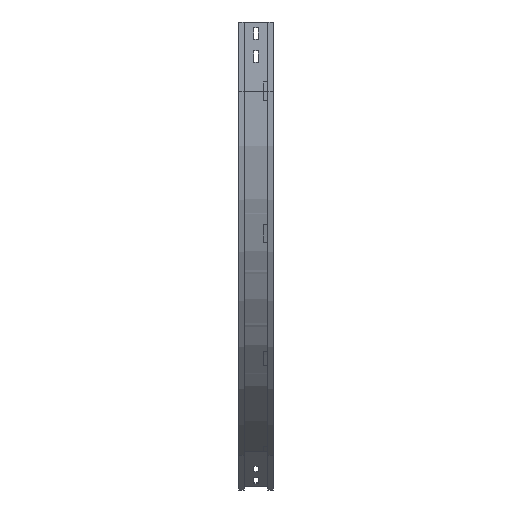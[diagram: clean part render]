
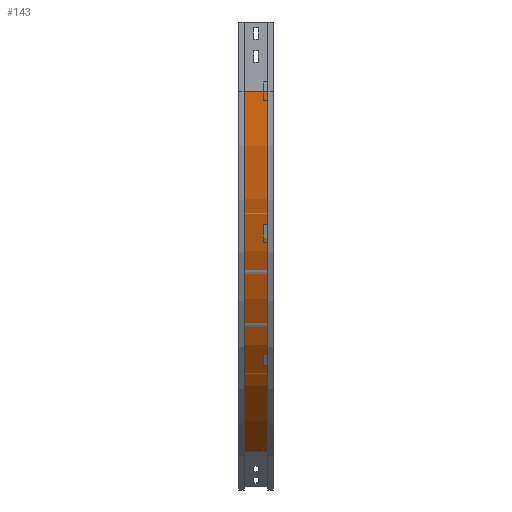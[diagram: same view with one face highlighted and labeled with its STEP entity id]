
A CAD part, left-side view. The second image highlights one B-rep face of the part: STEP entity #143.
In plain terms, the highlighted cylindrical face has radius 900 mm (diameter 1800 mm), a partial arc.
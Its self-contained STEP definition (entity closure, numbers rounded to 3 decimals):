
#56 = CARTESIAN_POINT ( 'NONE',  ( 459., 12., -929.423 ) ) ;
#60 = EDGE_CURVE ( 'NONE', #3239, #1881, #205, .T. ) ;
#70 = CARTESIAN_POINT ( 'NONE',  ( 909., 63., -150. ) ) ;
#143 = ADVANCED_FACE ( 'NONE', ( #1238 ), #165, .T. ) ;
#165 = CYLINDRICAL_SURFACE ( 'NONE', #644, 900. ) ;
#205 = CIRCLE ( 'NONE', #1478, 900. ) ;
#210 = CARTESIAN_POINT ( 'NONE',  ( 459., 12., -929.423 ) ) ;
#381 = DIRECTION ( 'NONE',  ( 0., -1., 0. ) ) ;
#593 = VECTOR ( 'NONE', #381, 1000. ) ;
#644 = AXIS2_PLACEMENT_3D ( 'NONE', #3329, #3289, #782 ) ;
#738 = CARTESIAN_POINT ( 'NONE',  ( 459., 63., -929.423 ) ) ;
#765 = CARTESIAN_POINT ( 'NONE',  ( 9., 12., -150. ) ) ;
#782 = DIRECTION ( 'NONE',  ( 0., 0., -1. ) ) ;
#876 = DIRECTION ( 'NONE',  ( -1., 0., 0. ) ) ;
#906 = EDGE_LOOP ( 'NONE', ( #2070, #1485, #1510, #3384 ) ) ;
#946 = EDGE_CURVE ( 'NONE', #3239, #3286, #1157, .T. ) ;
#1127 = DIRECTION ( 'NONE',  ( 0., -1., 0. ) ) ;
#1157 = LINE ( 'NONE', #1188, #2391 ) ;
#1188 = CARTESIAN_POINT ( 'NONE',  ( 9., 12., -150. ) ) ;
#1238 = FACE_OUTER_BOUND ( 'NONE', #906, .T. ) ;
#1478 = AXIS2_PLACEMENT_3D ( 'NONE', #70, #1127, #876 ) ;
#1485 = ORIENTED_EDGE ( 'NONE', *, *, #946, .F. ) ;
#1510 = ORIENTED_EDGE ( 'NONE', *, *, #60, .T. ) ;
#1520 = DIRECTION ( 'NONE',  ( -1., 0., 0. ) ) ;
#1773 = DIRECTION ( 'NONE',  ( 0., -1., 0. ) ) ;
#1881 = VERTEX_POINT ( 'NONE', #738 ) ;
#1930 = LINE ( 'NONE', #56, #593 ) ;
#1986 = EDGE_CURVE ( 'NONE', #1881, #2540, #1930, .T. ) ;
#2070 = ORIENTED_EDGE ( 'NONE', *, *, #3326, .F. ) ;
#2089 = CARTESIAN_POINT ( 'NONE',  ( 909., 12., -150. ) ) ;
#2391 = VECTOR ( 'NONE', #3261, 1000. ) ;
#2518 = CIRCLE ( 'NONE', #3082, 900. ) ;
#2540 = VERTEX_POINT ( 'NONE', #210 ) ;
#3082 = AXIS2_PLACEMENT_3D ( 'NONE', #2089, #1773, #1520 ) ;
#3239 = VERTEX_POINT ( 'NONE', #3388 ) ;
#3261 = DIRECTION ( 'NONE',  ( 0., -1., 0. ) ) ;
#3286 = VERTEX_POINT ( 'NONE', #765 ) ;
#3289 = DIRECTION ( 'NONE',  ( 0., -1., 0. ) ) ;
#3326 = EDGE_CURVE ( 'NONE', #3286, #2540, #2518, .T. ) ;
#3329 = CARTESIAN_POINT ( 'NONE',  ( 909., 0., -150. ) ) ;
#3384 = ORIENTED_EDGE ( 'NONE', *, *, #1986, .T. ) ;
#3388 = CARTESIAN_POINT ( 'NONE',  ( 9., 63., -150. ) ) ;
